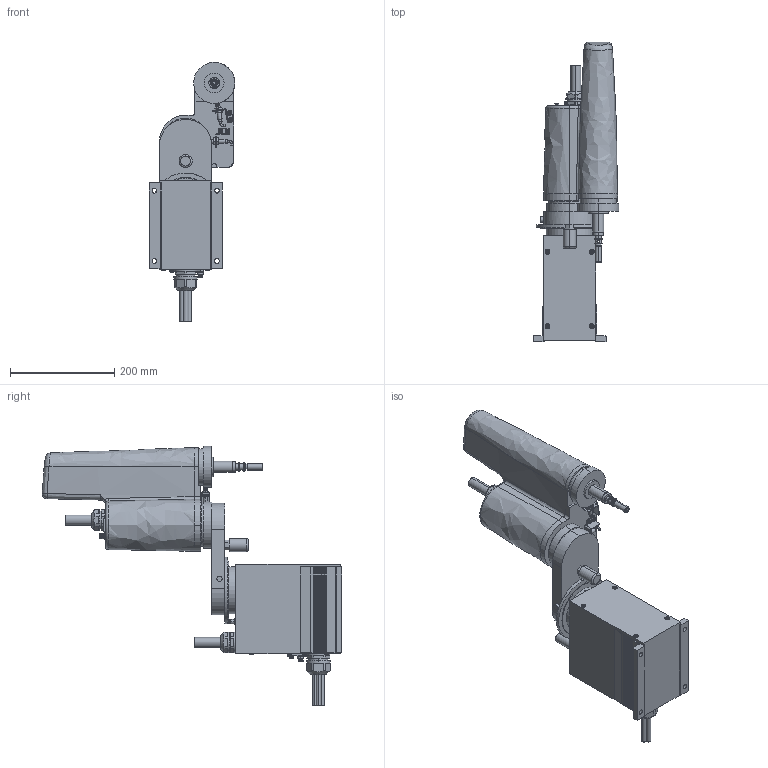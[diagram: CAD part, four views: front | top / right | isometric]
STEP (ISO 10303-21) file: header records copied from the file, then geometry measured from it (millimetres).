
FILE_DESCRIPTION (( 'STEP AP203' ), '1' );
FILE_NAME ('YK250X.STEP', '2005-06-22T10:22:05', ( 'IMロボット技術Gr' ), ( 'ヤマハ発動機' ), 'SwSTEP 2.0', 'SolidWorks 2004334', '' );
FILE_SCHEMA (( 'CONFIG_CONTROL_DESIGN' ));
Length unit declared in the file: millimetre
Products named in the file (11): YK250-Z; YK250X-XARM; YK250-XARM; YK250-YARM; YK250Z; RARM-1; YK250X; KN3BASE
Assembly tree (10 placements, depth 3):
  YK250X
    YK250-Z
      YK250Z
    KN3BASE
      KN3BASE
    YK250X-XARM
      YK250-XARM
    YK250-YARM
      YK250-YARM
    RARM-1
      RARM-1
Bounding box: 164.5 x 575.7 x 498.3 mm (x, y, z)
Volume: 8719767.3 mm3; surface area: 501589.8 mm2
Topology: 9 solids, 31 shells, 1553 faces, 3784 edges, 2365 vertices
Faces by surface type: plane 716, cylinder 479, cone 240, sphere 54, torus 48, bspline 16
Entity records: 69501 total; most frequent: CARTESIAN_POINT 31734, DIRECTION 8082, ORIENTED_EDGE 7348, EDGE_CURVE 3674, AXIS2_PLACEMENT_3D 3238, VERTEX_POINT 2333, EDGE_LOOP 1759, CIRCLE 1683
